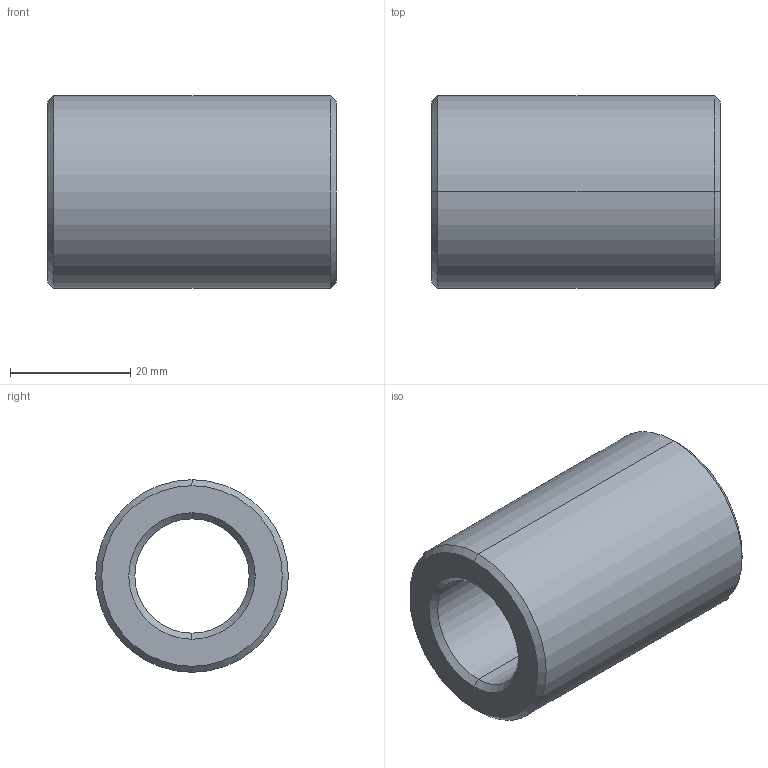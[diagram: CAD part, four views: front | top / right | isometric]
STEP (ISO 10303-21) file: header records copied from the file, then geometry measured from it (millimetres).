
FILE_DESCRIPTION (( 'STEP AP203' ), '1' );
FILE_NAME ('Muffe M20.STEP', '2018-02-22T09:18:22', ( 'install' ), ( 'Hewlett-Packard Company' ), 'SwSTEP 2.0', 'SolidWorks 2017', '' );
FILE_SCHEMA (( 'CONFIG_CONTROL_DESIGN' ));
Length unit declared in the file: millimetre
Products named in the file (1): Muffe M20
Bounding box: 48 x 32 x 32 mm (x, y, z)
Volume: 24834.3 mm3; surface area: 8544.3 mm2
Topology: 1 solids, 1 shells, 14 faces, 28 edges, 16 vertices
Faces by surface type: cone 8, cylinder 4, plane 2
Entity records: 445 total; most frequent: DIRECTION 74, CARTESIAN_POINT 59, ORIENTED_EDGE 56, AXIS2_PLACEMENT_3D 31, EDGE_CURVE 28, CIRCLE 16, VERTEX_POINT 16, EDGE_LOOP 16
